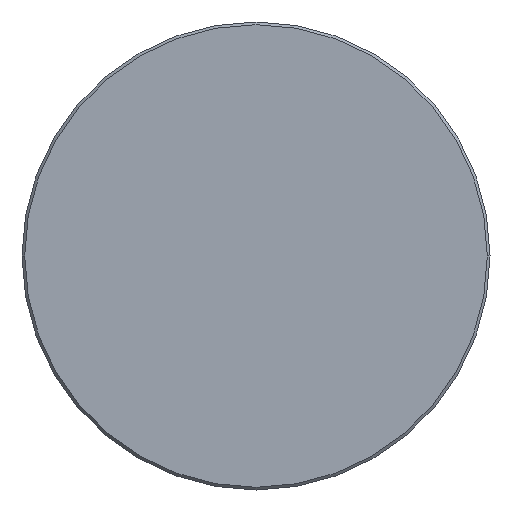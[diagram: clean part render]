
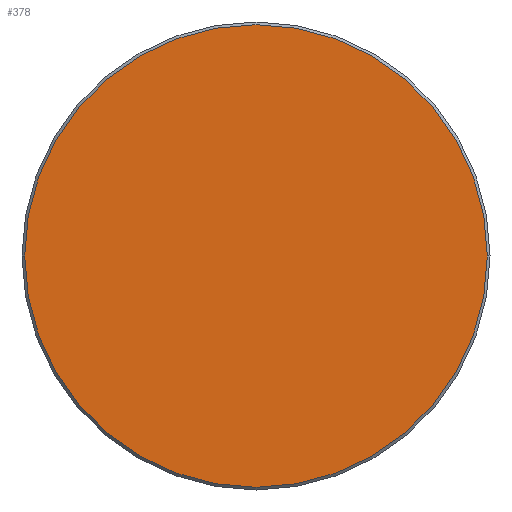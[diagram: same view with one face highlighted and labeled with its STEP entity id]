
A CAD part, left-side view. The second image highlights one B-rep face of the part: STEP entity #378.
In plain terms, the highlighted planar face has unit normal (-1, 0, 0).
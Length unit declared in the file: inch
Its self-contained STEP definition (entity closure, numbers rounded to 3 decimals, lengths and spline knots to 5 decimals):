
#47 = DIRECTION ( 'NONE',  ( 0., -1., 0. ) ) ;
#59 = EDGE_CURVE ( 'NONE', #367, #312, #285, .T. ) ;
#64 = AXIS2_PLACEMENT_3D ( 'NONE', #344, #376, #47 ) ;
#69 = CARTESIAN_POINT ( 'NONE',  ( 0., 0., 0. ) ) ;
#82 = AXIS2_PLACEMENT_3D ( 'NONE', #69, #353, #128 ) ;
#109 = DIRECTION ( 'NONE',  ( -1., 0., 0. ) ) ;
#128 = DIRECTION ( 'NONE',  ( 0., -1., 0. ) ) ;
#137 = FACE_OUTER_BOUND ( 'NONE', #260, .T. ) ;
#190 = CIRCLE ( 'NONE', #64, 0.33975 ) ;
#194 = CARTESIAN_POINT ( 'NONE',  ( 0., 0., 0. ) ) ;
#195 = ORIENTED_EDGE ( 'NONE', *, *, #59, .T. ) ;
#216 = DIRECTION ( 'NONE',  ( 0., -1., 0. ) ) ;
#259 = AXIS2_PLACEMENT_3D ( 'NONE', #194, #109, #216 ) ;
#260 = EDGE_LOOP ( 'NONE', ( #326, #195 ) ) ;
#275 = PLANE ( 'NONE',  #259 ) ;
#280 = CARTESIAN_POINT ( 'NONE',  ( 0., 0.33975, 0. ) ) ;
#285 = CIRCLE ( 'NONE', #82, 0.33975 ) ;
#304 = CARTESIAN_POINT ( 'NONE',  ( 0., -0.33975, 0. ) ) ;
#312 = VERTEX_POINT ( 'NONE', #280 ) ;
#326 = ORIENTED_EDGE ( 'NONE', *, *, #372, .T. ) ;
#344 = CARTESIAN_POINT ( 'NONE',  ( 0., 0., 0. ) ) ;
#353 = DIRECTION ( 'NONE',  ( -1., 0., 0. ) ) ;
#367 = VERTEX_POINT ( 'NONE', #304 ) ;
#372 = EDGE_CURVE ( 'NONE', #312, #367, #190, .T. ) ;
#376 = DIRECTION ( 'NONE',  ( -1., 0., 0. ) ) ;
#378 = ADVANCED_FACE ( 'NONE', ( #137 ), #275, .T. ) ;
